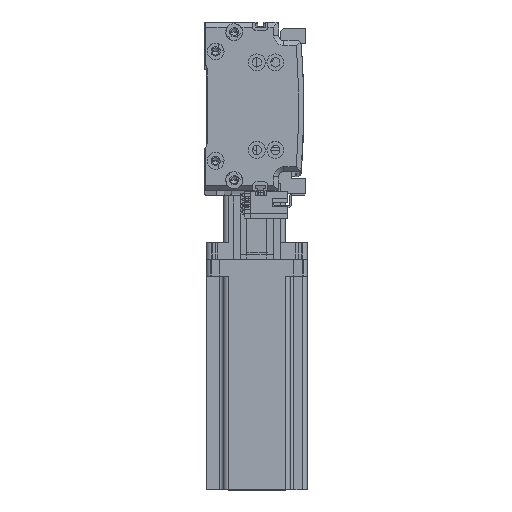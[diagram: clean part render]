
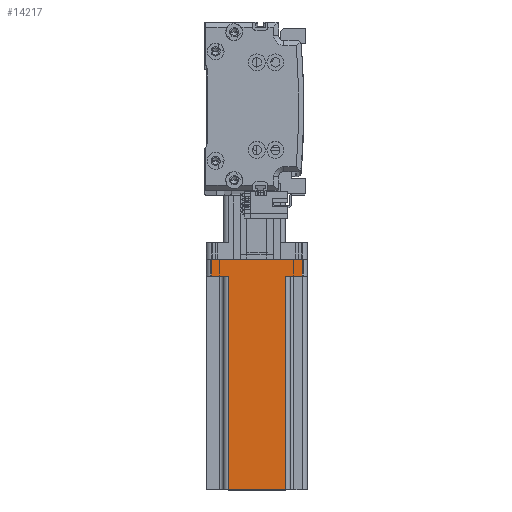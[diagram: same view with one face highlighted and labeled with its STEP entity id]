
A CAD part, top view. The second image highlights one B-rep face of the part: STEP entity #14217.
In plain terms, the highlighted planar face has unit normal (0, 0, 1) as drawn and (0, 1, 0) by its records, which use the part's own axes.
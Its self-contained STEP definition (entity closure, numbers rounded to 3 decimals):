
#57 = VECTOR ( 'NONE', #40764, 1000. ) ;
#699 = CARTESIAN_POINT ( 'NONE',  ( -17., 30., 10. ) ) ;
#1416 = CARTESIAN_POINT ( 'NONE',  ( -20., 30., 10. ) ) ;
#2469 = DIRECTION ( 'NONE',  ( -1., 0., 0. ) ) ;
#2631 = EDGE_CURVE ( 'NONE', #48518, #47100, #12601, .T. ) ;
#5749 = DIRECTION ( 'NONE',  ( 0., 0., 1. ) ) ;
#6171 = DIRECTION ( 'NONE',  ( 1., 0., 0. ) ) ;
#6329 = VECTOR ( 'NONE', #14729, 1000. ) ;
#7197 = PLANE ( 'NONE',  #20521 ) ;
#8216 = VERTEX_POINT ( 'NONE', #699 ) ;
#9996 = CARTESIAN_POINT ( 'NONE',  ( -27., 30., 137. ) ) ;
#11174 = VERTEX_POINT ( 'NONE', #38553 ) ;
#12109 = DIRECTION ( 'NONE',  ( 0., -1., 0. ) ) ;
#12601 = LINE ( 'NONE', #41484, #57 ) ;
#13089 = ORIENTED_EDGE ( 'NONE', *, *, #19722, .T. ) ;
#14217 = ADVANCED_FACE ( 'NONE', ( #14730 ), #7197, .F. ) ;
#14729 = DIRECTION ( 'NONE',  ( 0., 0., 1. ) ) ;
#14730 = FACE_OUTER_BOUND ( 'NONE', #33049, .T. ) ;
#15054 = VECTOR ( 'NONE', #30315, 1000. ) ;
#16104 = LINE ( 'NONE', #27639, #52253 ) ;
#16153 = DIRECTION ( 'NONE',  ( -1., 0., 0. ) ) ;
#17403 = LINE ( 'NONE', #49178, #53523 ) ;
#17987 = CARTESIAN_POINT ( 'NONE',  ( 17., 30., 10. ) ) ;
#19722 = EDGE_CURVE ( 'NONE', #8216, #58384, #57197, .T. ) ;
#19753 = VECTOR ( 'NONE', #2469, 1000. ) ;
#20076 = CARTESIAN_POINT ( 'NONE',  ( -27., 30., 10. ) ) ;
#20521 = AXIS2_PLACEMENT_3D ( 'NONE', #40442, #12109, #45169 ) ;
#21105 = VECTOR ( 'NONE', #5749, 1000. ) ;
#21141 = ORIENTED_EDGE ( 'NONE', *, *, #57164, .T. ) ;
#21283 = CARTESIAN_POINT ( 'NONE',  ( 30., 30., 137. ) ) ;
#23591 = ORIENTED_EDGE ( 'NONE', *, *, #33289, .T. ) ;
#23992 = LINE ( 'NONE', #1416, #47612 ) ;
#24402 = CARTESIAN_POINT ( 'NONE',  ( -27., 30., 0. ) ) ;
#25037 = VERTEX_POINT ( 'NONE', #17987 ) ;
#27639 = CARTESIAN_POINT ( 'NONE',  ( 17., 30., 137. ) ) ;
#30315 = DIRECTION ( 'NONE',  ( 0., 0., -1. ) ) ;
#31671 = ORIENTED_EDGE ( 'NONE', *, *, #39352, .T. ) ;
#31814 = CARTESIAN_POINT ( 'NONE',  ( -17., 30., 137. ) ) ;
#33049 = EDGE_LOOP ( 'NONE', ( #41377, #13089, #36479, #23591, #56522, #21141, #49432, #31671 ) ) ;
#33289 = EDGE_CURVE ( 'NONE', #11174, #25037, #16104, .T. ) ;
#36479 = ORIENTED_EDGE ( 'NONE', *, *, #37991, .F. ) ;
#36776 = LINE ( 'NONE', #21283, #19753 ) ;
#37991 = EDGE_CURVE ( 'NONE', #11174, #58384, #36776, .T. ) ;
#38553 = CARTESIAN_POINT ( 'NONE',  ( 17., 30., 137. ) ) ;
#38827 = CARTESIAN_POINT ( 'NONE',  ( -17., 30., 137. ) ) ;
#39352 = EDGE_CURVE ( 'NONE', #47100, #56459, #43988, .T. ) ;
#40442 = CARTESIAN_POINT ( 'NONE',  ( 30., 30., 137. ) ) ;
#40764 = DIRECTION ( 'NONE',  ( -1., 0., 0. ) ) ;
#41377 = ORIENTED_EDGE ( 'NONE', *, *, #57068, .T. ) ;
#41484 = CARTESIAN_POINT ( 'NONE',  ( 30., 30., 0. ) ) ;
#43988 = LINE ( 'NONE', #9996, #6329 ) ;
#45169 = DIRECTION ( 'NONE',  ( 1., 0., 0. ) ) ;
#47100 = VERTEX_POINT ( 'NONE', #24402 ) ;
#47612 = VECTOR ( 'NONE', #6171, 1000. ) ;
#48518 = VERTEX_POINT ( 'NONE', #56660 ) ;
#49178 = CARTESIAN_POINT ( 'NONE',  ( 20., 30., 10. ) ) ;
#49299 = CARTESIAN_POINT ( 'NONE',  ( 27., 30., 137. ) ) ;
#49432 = ORIENTED_EDGE ( 'NONE', *, *, #2631, .T. ) ;
#49451 = VERTEX_POINT ( 'NONE', #54686 ) ;
#52253 = VECTOR ( 'NONE', #55805, 1000. ) ;
#52682 = LINE ( 'NONE', #49299, #15054 ) ;
#53109 = EDGE_CURVE ( 'NONE', #49451, #25037, #17403, .T. ) ;
#53523 = VECTOR ( 'NONE', #16153, 1000. ) ;
#54686 = CARTESIAN_POINT ( 'NONE',  ( 27., 30., 10. ) ) ;
#55805 = DIRECTION ( 'NONE',  ( 0., 0., -1. ) ) ;
#56459 = VERTEX_POINT ( 'NONE', #20076 ) ;
#56522 = ORIENTED_EDGE ( 'NONE', *, *, #53109, .F. ) ;
#56660 = CARTESIAN_POINT ( 'NONE',  ( 27., 30., 0. ) ) ;
#57068 = EDGE_CURVE ( 'NONE', #56459, #8216, #23992, .T. ) ;
#57164 = EDGE_CURVE ( 'NONE', #49451, #48518, #52682, .T. ) ;
#57197 = LINE ( 'NONE', #38827, #21105 ) ;
#58384 = VERTEX_POINT ( 'NONE', #31814 ) ;
